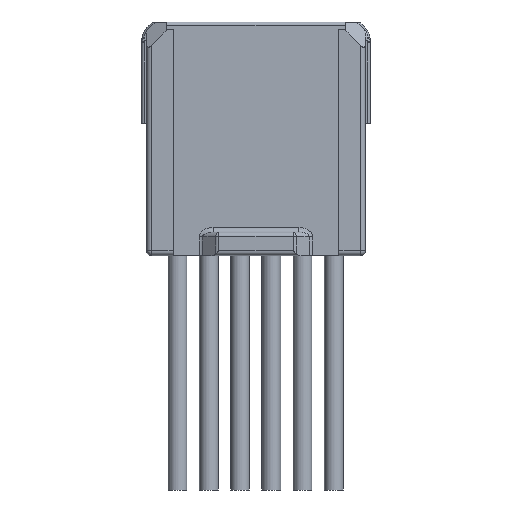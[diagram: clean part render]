
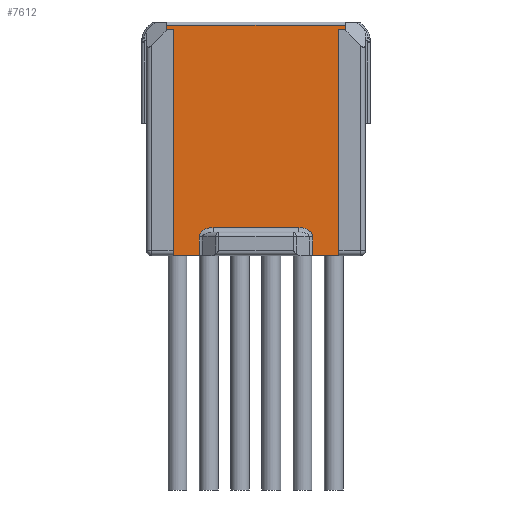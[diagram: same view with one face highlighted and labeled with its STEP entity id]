
A CAD part, front view. The second image highlights one B-rep face of the part: STEP entity #7612.
In plain terms, the highlighted planar face has unit normal (0, -1, 0).
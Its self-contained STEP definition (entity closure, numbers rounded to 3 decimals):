
#40 = VECTOR ( 'NONE', #11245, 1000. ) ;
#129 = LINE ( 'NONE', #11182, #950 ) ;
#231 = CARTESIAN_POINT ( 'NONE',  ( -2.7, 0., -0.2 ) ) ;
#251 = LINE ( 'NONE', #1497, #282 ) ;
#282 = VECTOR ( 'NONE', #6875, 1000. ) ;
#297 = ORIENTED_EDGE ( 'NONE', *, *, #6019, .T. ) ;
#304 = CARTESIAN_POINT ( 'NONE',  ( 5.7, 0., -0.5 ) ) ;
#330 = VECTOR ( 'NONE', #9878, 1000. ) ;
#335 = EDGE_CURVE ( 'NONE', #3727, #11337, #3268, .T. ) ;
#451 = DIRECTION ( 'NONE',  ( 0., -1., 0. ) ) ;
#510 = CARTESIAN_POINT ( 'NONE',  ( -3.62, 0., -13.45 ) ) ;
#544 = ORIENTED_EDGE ( 'NONE', *, *, #5150, .T. ) ;
#614 = EDGE_CURVE ( 'NONE', #7334, #1747, #11613, .T. ) ;
#950 = VECTOR ( 'NONE', #7755, 1000. ) ;
#1100 = ORIENTED_EDGE ( 'NONE', *, *, #11884, .F. ) ;
#1219 = CARTESIAN_POINT ( 'NONE',  ( -5.7, 0., -0.2 ) ) ;
#1270 = CARTESIAN_POINT ( 'NONE',  ( 3.62, 0., -13.75 ) ) ;
#1305 = VECTOR ( 'NONE', #4975, 1000. ) ;
#1497 = CARTESIAN_POINT ( 'NONE',  ( -5.7, 0., -6.05 ) ) ;
#1686 = LINE ( 'NONE', #12629, #11876 ) ;
#1747 = VERTEX_POINT ( 'NONE', #4389 ) ;
#2237 = DIRECTION ( 'NONE',  ( 0., 0., -1. ) ) ;
#2410 = ORIENTED_EDGE ( 'NONE', *, *, #6589, .T. ) ;
#2543 = CARTESIAN_POINT ( 'NONE',  ( 3.62, 0., -14.95 ) ) ;
#2684 = CARTESIAN_POINT ( 'NONE',  ( -3.62, 0., -14.95 ) ) ;
#2742 = CARTESIAN_POINT ( 'NONE',  ( -5.3, 0., -0.5 ) ) ;
#2943 =( BOUNDED_CURVE ( )  B_SPLINE_CURVE ( 3, ( #3001, #13960, #12649, #10826 ),
 .UNSPECIFIED., .F., .T. ) 
 B_SPLINE_CURVE_WITH_KNOTS ( ( 4, 4 ),
 ( 0., 1.571 ),
 .UNSPECIFIED. ) 
 CURVE ( )  GEOMETRIC_REPRESENTATION_ITEM ( )  RATIONAL_B_SPLINE_CURVE ( ( 1., 0.805, 0.805, 1. ) ) 
 REPRESENTATION_ITEM ( '' )  );
#3001 = CARTESIAN_POINT ( 'NONE',  ( 3.62, 0., -13.75 ) ) ;
#3138 = CARTESIAN_POINT ( 'NONE',  ( 5.7, 0., -0.2 ) ) ;
#3208 = VECTOR ( 'NONE', #7727, 1000. ) ;
#3268 = LINE ( 'NONE', #3461, #5421 ) ;
#3394 = DIRECTION ( 'NONE',  ( 1., 0., 0. ) ) ;
#3417 = DIRECTION ( 'NONE',  ( 0., 0., -1. ) ) ;
#3461 = CARTESIAN_POINT ( 'NONE',  ( 5.7, 0., -6.05 ) ) ;
#3504 = LINE ( 'NONE', #10295, #4183 ) ;
#3569 = EDGE_CURVE ( 'NONE', #7580, #6578, #1686, .T. ) ;
#3727 = VERTEX_POINT ( 'NONE', #3138 ) ;
#3815 = VERTEX_POINT ( 'NONE', #5263 ) ;
#3988 = ORIENTED_EDGE ( 'NONE', *, *, #13310, .T. ) ;
#4183 = VECTOR ( 'NONE', #8387, 1000. ) ;
#4221 = PLANE ( 'NONE',  #6103 ) ;
#4329 = CARTESIAN_POINT ( 'NONE',  ( -3.62, 0., -13.399 ) ) ;
#4332 = CARTESIAN_POINT ( 'NONE',  ( -2.749, 0., -13.15 ) ) ;
#4389 = CARTESIAN_POINT ( 'NONE',  ( 5.3, 0., -14.95 ) ) ;
#4420 = CARTESIAN_POINT ( 'NONE',  ( 7., 0., -14.95 ) ) ;
#4516 = ORIENTED_EDGE ( 'NONE', *, *, #335, .F. ) ;
#4975 = DIRECTION ( 'NONE',  ( 1., 0., 0. ) ) ;
#5150 = EDGE_CURVE ( 'NONE', #13903, #5336, #13236, .T. ) ;
#5197 = CARTESIAN_POINT ( 'NONE',  ( -3.62, 0., -13.75 ) ) ;
#5263 = CARTESIAN_POINT ( 'NONE',  ( 5.3, 0., -0.5 ) ) ;
#5336 = VERTEX_POINT ( 'NONE', #8198 ) ;
#5359 = CARTESIAN_POINT ( 'NONE',  ( -3.259, 0., -13.15 ) ) ;
#5390 = EDGE_CURVE ( 'NONE', #3815, #11337, #12394, .T. ) ;
#5421 = VECTOR ( 'NONE', #3417, 1000. ) ;
#5437 = ORIENTED_EDGE ( 'NONE', *, *, #13255, .F. ) ;
#5479 = VERTEX_POINT ( 'NONE', #1219 ) ;
#6019 = EDGE_CURVE ( 'NONE', #6578, #12889, #10022, .T. ) ;
#6094 = CARTESIAN_POINT ( 'NONE',  ( 7., 0., -13.15 ) ) ;
#6103 = AXIS2_PLACEMENT_3D ( 'NONE', #4420, #451, #3394 ) ;
#6578 = VERTEX_POINT ( 'NONE', #2684 ) ;
#6579 = ORIENTED_EDGE ( 'NONE', *, *, #8636, .T. ) ;
#6589 = EDGE_CURVE ( 'NONE', #3727, #5479, #7643, .T. ) ;
#6593 = VERTEX_POINT ( 'NONE', #2742 ) ;
#6875 = DIRECTION ( 'NONE',  ( 0., 0., -1. ) ) ;
#7075 = VERTEX_POINT ( 'NONE', #1270 ) ;
#7334 = VERTEX_POINT ( 'NONE', #2543 ) ;
#7580 = VERTEX_POINT ( 'NONE', #10655 ) ;
#7612 = ADVANCED_FACE ( 'NONE', ( #8495 ), #4221, .T. ) ;
#7643 = LINE ( 'NONE', #231, #330 ) ;
#7727 = DIRECTION ( 'NONE',  ( 1., 0., 0. ) ) ;
#7755 = DIRECTION ( 'NONE',  ( 0., 0., 1. ) ) ;
#7871 = EDGE_LOOP ( 'NONE', ( #6579, #9392, #4516, #2410, #3988, #1100, #8688, #10706, #297, #5437, #544, #11685, #8519, #9902 ) ) ;
#7999 = CARTESIAN_POINT ( 'NONE',  ( -5.7, 0., -0.5 ) ) ;
#8042 = CARTESIAN_POINT ( 'NONE',  ( -3.62, 0., -13.75 ) ) ;
#8108 = CARTESIAN_POINT ( 'NONE',  ( -2.749, 0., -13.15 ) ) ;
#8126 = LINE ( 'NONE', #8891, #40 ) ;
#8198 = CARTESIAN_POINT ( 'NONE',  ( 2.749, 0., -13.15 ) ) ;
#8262 = EDGE_CURVE ( 'NONE', #7075, #5336, #2943, .T. ) ;
#8387 = DIRECTION ( 'NONE',  ( 0., 0., 1. ) ) ;
#8495 = FACE_OUTER_BOUND ( 'NONE', #7871, .T. ) ;
#8519 = ORIENTED_EDGE ( 'NONE', *, *, #10636, .T. ) ;
#8636 = EDGE_CURVE ( 'NONE', #1747, #3815, #3504, .T. ) ;
#8688 = ORIENTED_EDGE ( 'NONE', *, *, #11774, .F. ) ;
#8698 = LINE ( 'NONE', #13086, #13648 ) ;
#8787 = CARTESIAN_POINT ( 'NONE',  ( 7., 0., -14.95 ) ) ;
#8861 = CARTESIAN_POINT ( 'NONE',  ( 5.7, 0., -0.5 ) ) ;
#8891 = CARTESIAN_POINT ( 'NONE',  ( -5.7, 0., -0.5 ) ) ;
#9125 = VECTOR ( 'NONE', #9136, 1000. ) ;
#9136 = DIRECTION ( 'NONE',  ( 1., 0., 0. ) ) ;
#9338 = DIRECTION ( 'NONE',  ( 0., 0., 1. ) ) ;
#9392 = ORIENTED_EDGE ( 'NONE', *, *, #5390, .T. ) ;
#9878 = DIRECTION ( 'NONE',  ( -1., 0., 0. ) ) ;
#9902 = ORIENTED_EDGE ( 'NONE', *, *, #614, .T. ) ;
#10022 = LINE ( 'NONE', #510, #12471 ) ;
#10295 = CARTESIAN_POINT ( 'NONE',  ( 5.3, 0., -14.95 ) ) ;
#10636 = EDGE_CURVE ( 'NONE', #7075, #7334, #8698, .T. ) ;
#10655 = CARTESIAN_POINT ( 'NONE',  ( -5.3, 0., -14.95 ) ) ;
#10706 = ORIENTED_EDGE ( 'NONE', *, *, #3569, .T. ) ;
#10826 = CARTESIAN_POINT ( 'NONE',  ( 2.749, 0., -13.15 ) ) ;
#11182 = CARTESIAN_POINT ( 'NONE',  ( -5.3, 0., -14.95 ) ) ;
#11245 = DIRECTION ( 'NONE',  ( -1., 0., 0. ) ) ;
#11337 = VERTEX_POINT ( 'NONE', #8861 ) ;
#11613 = LINE ( 'NONE', #8787, #3208 ) ;
#11685 = ORIENTED_EDGE ( 'NONE', *, *, #8262, .F. ) ;
#11774 = EDGE_CURVE ( 'NONE', #7580, #6593, #129, .T. ) ;
#11876 = VECTOR ( 'NONE', #13668, 1000. ) ;
#11884 = EDGE_CURVE ( 'NONE', #6593, #13751, #8126, .T. ) ;
#12394 = LINE ( 'NONE', #304, #9125 ) ;
#12471 = VECTOR ( 'NONE', #9338, 1000. ) ;
#12629 = CARTESIAN_POINT ( 'NONE',  ( 7., 0., -14.95 ) ) ;
#12649 = CARTESIAN_POINT ( 'NONE',  ( 3.259, 0., -13.15 ) ) ;
#12889 = VERTEX_POINT ( 'NONE', #5197 ) ;
#13086 = CARTESIAN_POINT ( 'NONE',  ( 3.62, 0., -14.95 ) ) ;
#13236 = LINE ( 'NONE', #6094, #1305 ) ;
#13255 = EDGE_CURVE ( 'NONE', #13903, #12889, #13664, .T. ) ;
#13310 = EDGE_CURVE ( 'NONE', #5479, #13751, #251, .T. ) ;
#13648 = VECTOR ( 'NONE', #2237, 1000. ) ;
#13664 =( BOUNDED_CURVE ( )  B_SPLINE_CURVE ( 3, ( #8108, #5359, #4329, #8042 ),
 .UNSPECIFIED., .F., .T. ) 
 B_SPLINE_CURVE_WITH_KNOTS ( ( 4, 4 ),
 ( 1.571, 3.142 ),
 .UNSPECIFIED. ) 
 CURVE ( )  GEOMETRIC_REPRESENTATION_ITEM ( )  RATIONAL_B_SPLINE_CURVE ( ( 1., 0.805, 0.805, 1. ) ) 
 REPRESENTATION_ITEM ( '' )  );
#13668 = DIRECTION ( 'NONE',  ( 1., 0., 0. ) ) ;
#13751 = VERTEX_POINT ( 'NONE', #7999 ) ;
#13903 = VERTEX_POINT ( 'NONE', #4332 ) ;
#13960 = CARTESIAN_POINT ( 'NONE',  ( 3.62, 0., -13.399 ) ) ;
